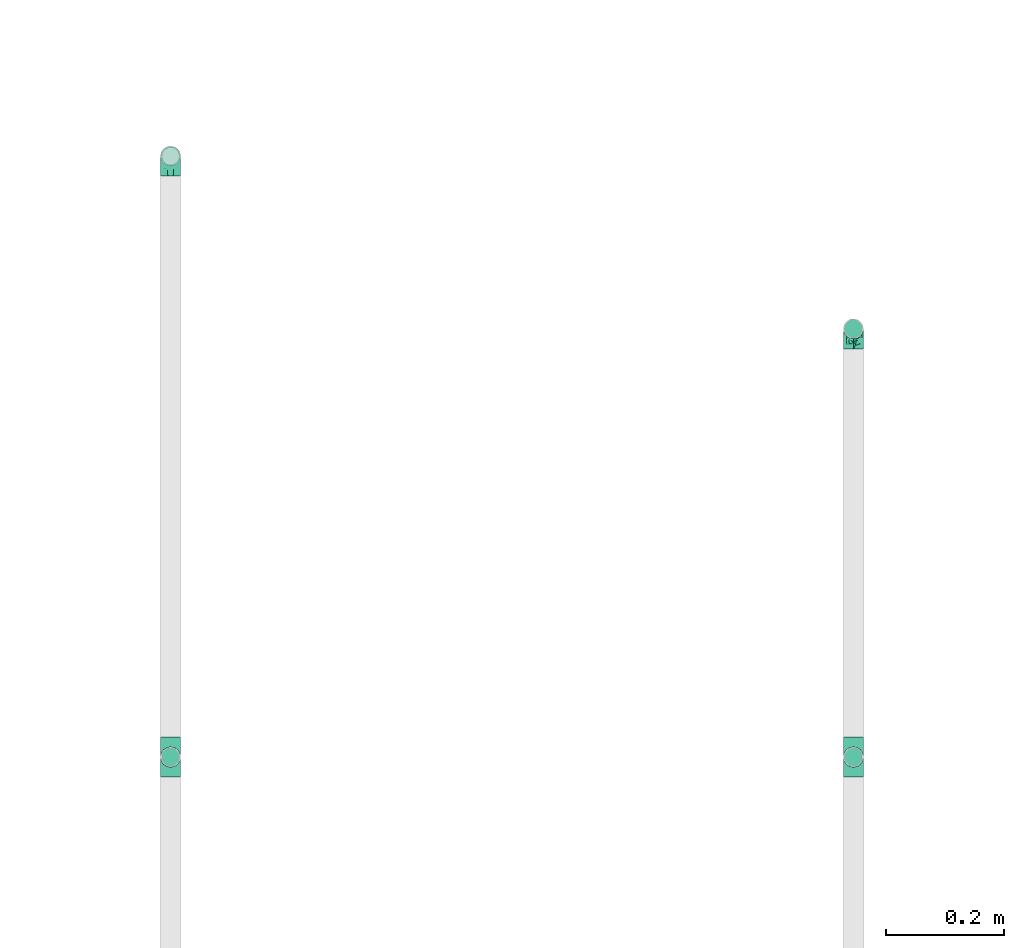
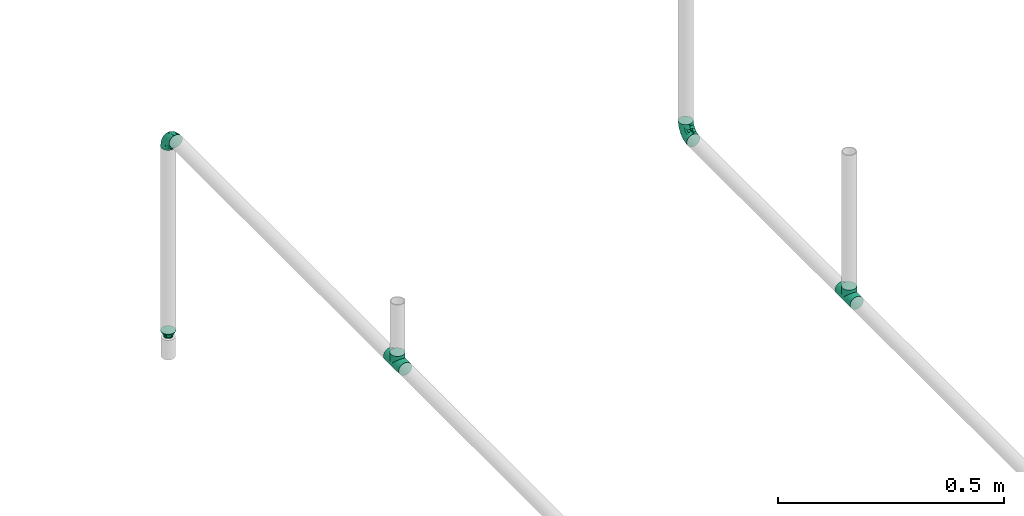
# One storey, part 44 of 95: 5 flow fittings.
"""IFC2X3 building model written with IfcOpenShell, lengths in millimetres."""

from ifc_helpers import new_model, entity, si_unit, converted_unit, derived_unit, direction, frame, origin_with_axes, place, context, subcontext, project, spatial, open_shell, surface_model, source, transform, mapped, type_object, element, save


model = new_model("IFC2X3")

# Units and contexts
model_context = context("Model", 3, precision=0.01, world=frame((0.0, 4.29681676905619e-09, 0.0)), true_north=direction((4.01073788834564e-13, 1.0)))
plan_context = context("Plan", 3, precision=0.01, world=frame((0.0, 4.29681676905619e-09, 0.0)), true_north=direction((4.01073788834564e-13, 1.0)))
body_context = subcontext(model_context, "Body", "Model", "MODEL_VIEW")
ifc_project = project(units=[converted_unit("PLANEANGLEUNIT", "DEGREE", entity("IfcPositiveLengthMeasure", 0.0174532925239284), si_unit("PLANEANGLEUNIT", "RADIAN"), dimensions=[0, 0, 0, 0, 0, 0, 0]), si_unit("AREAUNIT", "SQUARE_METRE"), si_unit("LENGTHUNIT", "METRE", prefix="MILLI"), si_unit("MASSUNIT", "GRAM", prefix="KILO"), si_unit("POWERUNIT", "WATT"), si_unit("PRESSUREUNIT", "PASCAL"), si_unit("FORCEUNIT", "NEWTON", prefix="KILO"), si_unit("ELECTRICVOLTAGEUNIT", "VOLT"), si_unit("ELECTRICCURRENTUNIT", "AMPERE"), si_unit("THERMODYNAMICTEMPERATUREUNIT", "DEGREE_CELSIUS"), si_unit("TIMEUNIT", "SECOND"), si_unit("VOLUMEUNIT", "CUBIC_METRE"), derived_unit("LINEARVELOCITYUNIT", [(si_unit("LENGTHUNIT", "METRE"), 1), (si_unit("TIMEUNIT", "SECOND"), -1)]), derived_unit("VOLUMETRICFLOWRATEUNIT", [(si_unit("VOLUMEUNIT", "CUBIC_METRE"), 1), (si_unit("TIMEUNIT", "SECOND"), -1)]), derived_unit("THERMALTRANSMITTANCEUNIT", [(si_unit("POWERUNIT", "WATT"), 1), (si_unit("THERMODYNAMICTEMPERATUREUNIT", "KELVIN"), -1), (si_unit("AREAUNIT", "SQUARE_METRE"), -1)]), derived_unit("SOUNDPRESSUREUNIT", [(si_unit("PRESSUREUNIT", "PASCAL"), 1)])], contexts=[model_context, plan_context])

# Site, building, storey
site_placement = place(None, frame((0.0, -4.29681676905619e-09, 0.0), z_axis=(0.0, 0.0, 1.0), x_axis=(1.0, 0.0, 0.0)))
site = spatial("IfcSite", under=ifc_project, at=site_placement, CompositionType="ELEMENT")
building_placement = place(site_placement, frame((0.0, 4.29681676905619e-09, 0.0), z_axis=(0.0, 0.0, 1.0), x_axis=(1.0, 0.0, 0.0)))
building = spatial("IfcBuilding", under=site, at=building_placement, Name="mc-building", CompositionType="ELEMENT")
storey_placement = place(building_placement, frame((0.0, 0.0, 210900.0), z_axis=(0.0, 0.0, 1.0), x_axis=(1.0, 0.0, 0.0)))
storey = spatial("IfcBuildingStorey", under=building, at=storey_placement, Name="Nivå F", CompositionType="ELEMENT", Elevation=210900.0)

# Flow fittings
pipe_fitting_type_1 = type_object("IfcPipeFittingType", Name="magi_pipe_fe_reducer_centric_short_NOR", PredefinedType="TRANSITION")
shared_shape_1 = source(origin_with_axes(), body_context, "Body", "SurfaceModel", [
    surface_model("IfcShellBasedSurfaceModel", [(-2.0, -7.56604, -7.56604), (-2.0, -10.33541, -2.76936), (-2.0, -5.35, -9.26647), (-2.0, 5.35, -9.26647), (-2.0, 10.33541, -2.76936), (-2.0, 7.56604, -7.56604), (12.4, 11.9501, 11.9501), (12.4, 0.0, 16.9), (12.4, 11.9501, -11.9501), (12.4, 16.9, 0.0), (0.0, -10.7, 0.0), (0.0, -5.35, 9.26647), (0.0, -5.35, -9.26647), (0.0, 10.7, 0.0), (12.4, 15.66253, -2.98753), (12.4, 8.96258, -13.18758), (0.0, 6.6875, -6.94985), (12.4, -15.66253, -2.98753), (12.4, -16.9, 0.0), (12.4, 5.97505, -14.42505), (0.0, 5.35, -9.26647), (12.4, 14.42505, -5.97505), (0.0, 8.025, -4.63324), (0.0, 9.3625, -2.31662), (0.0, -9.3625, -2.31662), (0.0, -8.025, -4.63324), (12.4, -14.42505, -5.97505), (12.4, 13.18758, -8.96258), (12.4, -13.18758, -8.96258), (12.4, -11.9501, -11.9501), (0.0, -6.6875, -6.94985), (12.4, -8.96258, -13.18758), (12.4, -5.97505, -14.42505), (12.4, -15.66253, 2.98753), (12.4, -8.96258, 13.18758), (0.0, -6.6875, 6.94985), (12.4, -11.9501, 11.9501), (12.4, 15.66253, 2.98753), (12.4, -5.97505, 14.42505), (12.4, -14.42505, 5.97505), (0.0, -8.025, 4.63324), (0.0, -9.3625, 2.31662), (0.0, 9.3625, 2.31662), (0.0, 8.025, 4.63324), (12.4, 14.42505, 5.97505), (12.4, -13.18758, 8.96258), (12.4, 13.18758, 8.96258), (0.0, 6.6875, 6.94985), (12.4, 8.96258, 13.18758), (0.0, 5.35, 9.26647), (12.4, 5.97505, 14.42505), (14.4, 4.37404, -16.32415), (14.4, 8.45, -14.63583), (14.4, 11.9501, -11.9501), (14.4, -8.45, -14.63583), (14.4, 16.32415, -4.37404), (14.4, 16.32415, 4.37404), (14.4, 14.63583, -8.45), (14.4, 0.0, -16.9), (14.4, -4.37404, -16.32415), (14.4, -11.9501, -11.9501), (14.4, -16.32415, -4.37404), (14.4, -14.63583, -8.45), (14.4, -16.32415, 4.37404), (14.4, 16.9, 0.0), (14.4, 14.63583, 8.45), (14.4, 11.9501, 11.9501), (14.4, 4.37404, 16.32415), (14.4, 8.45, 14.63583), (14.4, 0.0, 16.9), (14.4, -14.63583, 8.45), (14.4, -16.9, 0.0), (14.4, -8.45, 14.63583), (14.4, -11.9501, 11.9501), (14.4, -4.37404, 16.32415), (12.4, 4.37404, 16.32415), (12.4, -14.63583, 8.45), (12.4, 16.32415, 4.37404), (12.4, 8.45, 14.63583), (12.4, 14.63583, 8.45), (12.4, -8.45, 14.63583), (12.4, -4.37404, 16.32415), (12.4, -16.32415, 4.37404), (12.4, -16.32415, -4.37404), (12.4, -8.45, -14.63583), (12.4, 16.32415, -4.37404), (12.4, 14.63583, -8.45), (12.4, 8.45, -14.63583), (12.4, 4.37404, -16.32415), (12.4, 0.0, -16.9), (12.4, -14.63583, -8.45), (12.4, -4.37404, -16.32415), (-2.0, 2.76936, 10.33541), (-2.0, 0.0, 10.7), (-2.0, 5.35, 9.26647), (-2.0, 7.56604, 7.56604), (-2.0, 9.26647, 5.35), (-2.0, 10.33541, 2.76936), (-2.0, -10.33541, 2.76936), (-2.0, -2.76936, 10.33541), (-2.0, -7.56604, 7.56604), (-2.0, -5.35, 9.26647), (-2.0, -9.26647, 5.35), (-2.0, -10.7, 0.0), (-2.0, 9.26647, -5.35), (-2.0, 2.76936, -10.33541), (-2.0, -9.26647, -5.35), (-2.0, 0.0, -10.7), (-2.0, -2.76936, -10.33541), (-2.0, 10.7, 0.0), (0.0, 0.0, -10.7), (0.0, 2.76936, -10.33541), (0.0, 10.33541, -2.76936), (0.0, 7.56604, -7.56604), (0.0, -10.33541, -2.76936), (0.0, 9.26647, -5.35), (0.0, 0.0, 10.7), (0.0, -2.76936, -10.33541), (0.0, -7.56604, -7.56604), (0.0, -9.26647, -5.35), (0.0, 10.33541, 2.76936), (0.0, 9.26647, 5.35), (0.0, 7.56604, 7.56604), (0.0, 2.76936, 10.33541), (0.0, -7.56604, 7.56604), (0.0, -10.33541, 2.76936), (0.0, -9.26647, 5.35), (0.0, -2.76936, 10.33541), (0.0, 2.675, -9.26647), (0.0, -2.675, -9.26647), (12.4, 2.98753, -15.66253), (0.0, 0.0, -9.26647), (12.4, -2.98753, -15.66253), (0.0, -2.675, 9.26647), (0.0, 2.675, 9.26647), (12.4, -2.98753, 15.66253), (0.0, 0.0, 9.26647), (12.4, 2.98753, 15.66253)], [open_shell([[[0, 1, 2]], [[3, 4, 5]], [[6, 7, 8]], [[8, 9, 6]], [[10, 11, 12]], [[13, 9, 14]], [[15, 16, 8]], [[17, 18, 10]], [[15, 19, 20]], [[21, 22, 23]], [[24, 25, 26]], [[22, 21, 27]], [[28, 26, 25]], [[29, 30, 31]], [[12, 32, 31]], [[10, 18, 33]], [[34, 35, 36]], [[37, 9, 13]], [[34, 38, 11]], [[39, 40, 41]], [[42, 43, 44]], [[40, 39, 45]], [[46, 44, 43]], [[6, 47, 48]], [[49, 50, 48]], [[51, 52, 53]], [[54, 51, 53]], [[53, 55, 56]], [[55, 53, 57]], [[53, 56, 54]], [[58, 54, 59]], [[58, 51, 54]], [[60, 61, 62]], [[61, 60, 54]], [[54, 63, 61]], [[56, 55, 64]], [[56, 65, 66]], [[56, 66, 67]], [[67, 63, 54]], [[67, 66, 68]], [[63, 67, 69]], [[69, 70, 63]], [[71, 61, 63]], [[70, 72, 73]], [[70, 69, 72]], [[72, 69, 74]], [[54, 56, 67]], [[75, 76, 7]], [[77, 75, 78]], [[6, 79, 77]], [[6, 77, 78]], [[76, 75, 77]], [[80, 76, 36]], [[80, 81, 7]], [[7, 76, 80]], [[82, 76, 77]], [[82, 83, 18]], [[82, 77, 84]], [[77, 85, 8]], [[8, 85, 86]], [[8, 87, 88]], [[84, 77, 8]], [[88, 89, 8]], [[83, 29, 90]], [[29, 83, 84]], [[84, 89, 91]], [[83, 82, 84]], [[8, 89, 84]], [[85, 77, 9]], [[83, 61, 18]], [[90, 62, 83]], [[54, 29, 84]], [[90, 29, 60]], [[59, 84, 91]], [[83, 62, 61]], [[61, 71, 18]], [[59, 54, 84]], [[60, 29, 54]], [[60, 62, 90]], [[58, 59, 91]], [[91, 89, 58]], [[88, 51, 89]], [[87, 52, 88]], [[57, 8, 86]], [[87, 8, 53]], [[55, 86, 85]], [[87, 53, 52]], [[52, 51, 88]], [[64, 55, 85]], [[57, 86, 55]], [[57, 53, 8]], [[9, 64, 85]], [[89, 51, 58]], [[77, 56, 9]], [[79, 65, 77]], [[68, 6, 78]], [[79, 6, 66]], [[67, 78, 75]], [[77, 65, 56]], [[56, 64, 9]], [[67, 68, 78]], [[66, 6, 68]], [[66, 65, 79]], [[69, 67, 75]], [[75, 7, 69]], [[81, 74, 7]], [[80, 72, 81]], [[70, 36, 76]], [[80, 36, 73]], [[63, 76, 82]], [[80, 73, 72]], [[72, 74, 81]], [[71, 63, 82]], [[70, 76, 63]], [[70, 73, 36]], [[18, 71, 82]], [[7, 74, 69]], [[92, 1, 93]], [[94, 1, 92]], [[95, 96, 97]], [[95, 97, 94]], [[98, 93, 1]], [[99, 100, 101]], [[99, 93, 100]], [[100, 98, 102]], [[93, 98, 100]], [[98, 1, 103]], [[94, 97, 1]], [[1, 97, 4]], [[5, 4, 104]], [[4, 3, 1]], [[105, 1, 3]], [[1, 0, 106]], [[2, 107, 108]], [[2, 1, 105]], [[105, 107, 2]], [[4, 97, 109]], [[20, 110, 111]], [[112, 20, 113]], [[114, 20, 112]], [[112, 113, 115]], [[116, 114, 112]], [[110, 12, 117]], [[110, 20, 12]], [[118, 114, 119]], [[114, 118, 12]], [[20, 114, 12]], [[112, 13, 120]], [[120, 121, 122]], [[120, 122, 123]], [[116, 112, 123]], [[123, 122, 49]], [[116, 124, 114]], [[125, 124, 126]], [[10, 114, 125]], [[124, 127, 11]], [[125, 114, 124]], [[127, 124, 116]], [[123, 112, 120]], [[1, 114, 103]], [[106, 119, 1]], [[12, 0, 2]], [[106, 0, 118]], [[117, 2, 108]], [[1, 119, 114]], [[114, 10, 103]], [[117, 12, 2]], [[118, 0, 12]], [[118, 119, 106]], [[110, 117, 108]], [[108, 107, 110]], [[105, 111, 107]], [[3, 20, 105]], [[115, 5, 104]], [[3, 5, 113]], [[112, 104, 4]], [[3, 113, 20]], [[20, 111, 105]], [[13, 112, 4]], [[115, 104, 112]], [[115, 113, 5]], [[109, 13, 4]], [[107, 111, 110]], [[97, 120, 109]], [[96, 121, 97]], [[49, 95, 94]], [[96, 95, 122]], [[123, 94, 92]], [[97, 121, 120]], [[120, 13, 109]], [[123, 49, 94]], [[122, 95, 49]], [[122, 121, 96]], [[116, 123, 92]], [[92, 93, 116]], [[99, 127, 93]], [[101, 11, 99]], [[126, 100, 102]], [[101, 100, 124]], [[125, 102, 98]], [[101, 124, 11]], [[11, 127, 99]], [[10, 125, 98]], [[126, 102, 125]], [[126, 124, 100]], [[103, 10, 98]], [[93, 127, 116]], [[18, 7, 36]], [[18, 29, 8]], [[89, 8, 29]], [[18, 8, 7]], [[13, 11, 49]], [[13, 20, 12]], [[13, 12, 11]], [[24, 26, 17]], [[10, 24, 17]], [[16, 15, 20]], [[30, 12, 31]], [[23, 14, 21]], [[19, 128, 20]], [[27, 8, 16]], [[32, 12, 129]], [[30, 28, 25]], [[130, 131, 128]], [[129, 132, 32]], [[16, 22, 27]], [[13, 14, 23]], [[128, 19, 130]], [[130, 89, 131]], [[131, 132, 129]], [[89, 132, 131]], [[28, 30, 29]], [[42, 44, 37]], [[13, 42, 37]], [[35, 34, 11]], [[47, 49, 48]], [[41, 33, 39]], [[38, 133, 11]], [[45, 36, 35]], [[50, 49, 134]], [[47, 46, 43]], [[135, 136, 133]], [[134, 137, 50]], [[35, 40, 45]], [[10, 33, 41]], [[133, 38, 135]], [[135, 7, 136]], [[136, 137, 134]], [[7, 137, 136]], [[46, 47, 6]]])]),
])
flow_fitting_placement = place(storey_placement, frame((526298.68266, 447207.85, 3762.948), z_axis=(-1.0, 0.0, 0.0), x_axis=(0.0, 0.0, 1.0)))
element("IfcFlowFitting", 1, at=flow_fitting_placement, inside=storey, type_object=pipe_fitting_type_1, Name="magi_pipe_fe_reducer_centric_short_NOR", context=body_context, shape_type="MappedRepresentation", body=[
    mapped(shared_shape_1, transform((0.0, 0.0, 0.0), scale=1.0)),
])
pipe_fitting_type_2 = type_object("IfcPipeFittingType", Name="magi_pipe_fe_elbow_short_001", PredefinedType="BEND")
shared_shape_2 = source(origin_with_axes(), body_context, "Body", "SurfaceModel", [
    surface_model("IfcShellBasedSurfaceModel", [(-33.8, 8.45, -14.63583), (-33.8, 4.37404, -16.32415), (-33.8, 11.9501, -11.9501), (-33.8, -11.9501, -11.9501), (-33.8, -14.63583, -8.45), (-33.8, -8.45, -14.63583), (-33.8, 0.0, -16.9), (-33.8, -4.37404, -16.32415), (-33.8, -4.37404, 16.32415), (-33.8, 0.0, 16.9), (-33.8, -8.45, 14.63583), (-33.8, 16.32415, -4.37404), (-33.8, 14.63583, -8.45), (-33.8, -16.32415, -4.37404), (-33.8, -16.9, 0.0), (-33.8, -16.32415, 4.37404), (-33.8, 11.9501, 11.9501), (-33.8, 14.63583, 8.45), (-33.8, 16.32415, 4.37404), (-33.8, 4.37404, 16.32415), (-33.8, 8.45, 14.63583), (-33.8, -14.63583, 8.45), (-33.8, -11.9501, 11.9501), (-33.8, 16.9, 0.0), (-11.9501, 33.8, -11.9501), (0.0, 33.8, -16.9), (-4.37404, 33.8, -16.32415), (-8.45, 33.8, -14.63583), (-14.63583, 33.8, -8.45), (-16.32415, 33.8, -4.37404), (14.63583, 33.8, -8.45), (8.45, 33.8, 14.63583), (16.32415, 33.8, -4.37404), (8.45, 33.8, -14.63583), (11.9501, 33.8, -11.9501), (4.37404, 33.8, -16.32415), (16.32415, 33.8, 4.37404), (16.9, 33.8, 0.0), (-11.9501, 33.8, 11.9501), (-16.32415, 33.8, 4.37404), (-14.63583, 33.8, 8.45), (-8.45, 33.8, 14.63583), (-4.37404, 33.8, 16.32415), (11.9501, 33.8, 11.9501), (14.63583, 33.8, 8.45), (0.0, 33.8, 16.9), (4.37404, 33.8, 16.32415), (-16.9, 33.8, 0.0), (-24.79389, -13.12945, 9.48721), (-22.19287, -9.75018, 12.59315), (-24.09897, -14.97035, 0.0), (-14.93934, -10.76256, 8.5297), (-22.46095, -14.75051, 5.27077), (14.75051, 22.46094, 5.27077), (11.9251, 13.23888, 4.33236), (13.04069, 14.39795, 0.0), (7.71387, 13.68847, 11.55891), (9.75018, 22.19287, 12.59315), (4.10169, 13.0571, 14.04018), (-24.84007, -6.39063, 15.2048), (-25.81779, -2.23879, 16.61097), (-23.66549, 2.59054, 16.87119), (-26.50418, 14.06512, 11.08152), (-24.21253, 17.66365, 7.72657), (-29.58514, 15.86957, 7.00283), (-6.17382, -7.5455, 0.0), (-13.23888, -11.9251, 4.33236), (-14.39795, -13.04069, 0.0), (-17.81434, 18.87373, 11.97104), (-6.30846, 29.15138, 15.82987), (-2.31622, 25.28002, 16.85849), (-29.23923, 10.23435, 13.77053), (-1.45439, -2.85688, 7.61475), (-0.28326, 0.34872, 10.09509), (-5.74484, -4.04709, 10.4122), (-4.41137, 11.31918, 16.59407), (-8.39727, 3.10034, 15.7812), (-1.72649, 9.1306, 15.53089), (-17.39909, 24.75344, 7.64977), (-26.19233, 20.0512, 0.0), (-28.14518, 17.29657, 4.25857), (-26.05147, 6.6281, 15.96447), (-5.87354, 16.61944, 16.86968), (-12.51807, 12.51807, 16.48937), (-10.06312, 7.38516, 16.81295), (-3.01882, 3.01882, 13.81718), (-13.0571, -4.10169, 14.04018), (-16.82553, -0.15166, 16.38038), (10.76256, 14.93934, 8.5297), (13.12945, 24.79389, 9.48721), (6.39063, 24.84007, 15.2048), (2.23879, 25.81779, 16.61097), (-13.68847, -7.71387, 11.55891), (14.97035, 24.09897, 0.0), (-7.30894, 22.89991, 16.09489), (-10.67958, 26.17414, 14.008), (-12.78295, 18.26924, 15.06066), (-13.88562, 22.45231, 12.93244), (-18.04944, 15.16501, 14.04434), (-23.11658, 20.08178, 4.02986), (-21.84989, 21.84989, 0.0), (-18.55817, 25.48277, 3.93065), (-13.95142, 26.94732, 11.03289), (-18.57098, 7.23906, 16.59756), (-16.58335, 4.14122, 16.89279), (-17.96666, 11.46709, 15.63151), (-9.84453, 17.54304, 16.18938), (0.15166, 16.82553, 16.38038), (-23.27207, 11.47201, 14.23154), (3.84842, 5.86994, 10.70473), (-8.0212, -7.54413, 7.93275), (1.00345, -2.19508, 4.57414), (5.13203, 3.01004, 5.90201), (5.24161, 1.7543, 2.53265), (8.70457, 7.04947, 3.99182), (-20.0512, 26.19233, 0.0), (8.4852, 8.76699, 7.09296), (-4.55488, -6.72064, 4.90681), (2.05031, -2.05031, 0.0), (7.5455, 6.17382, 0.0), (-26.75399, 2.1369, -16.845), (-14.61995, 24.73803, -11.27736), (-28.45274, -13.45335, -9.81895), (-26.00469, 6.63555, -15.96645), (-23.06726, 20.04573, -4.26202), (-13.80647, -4.26506, -14.17873), (-14.67501, -0.21081, -16.07388), (-6.7902, -0.2828, -13.8478), (-24.53586, 11.08096, -14.13417), (-26.72048, 14.00837, -11.05776), (10.0967, 24.44989, -12.75976), (5.83237, 21.40218, -15.03047), (6.66249, 28.54238, -15.38093), (-20.38182, 15.48705, -12.74596), (12.53268, 21.23441, -9.15363), (12.54494, 15.67504, -5.54878), (9.7522, 12.89279, -8.66343), (-15.65186, 19.64213, -13.01327), (-12.03528, 20.66498, -14.67665), (-15.61907, 15.61906, -14.83879), (-25.56551, -15.26206, 0.0), (-24.65452, -15.12934, -5.50955), (13.45335, 28.45274, -9.81895), (15.12934, 24.65452, -5.50955), (-7.35442, -8.31014, -5.65563), (-15.67504, -12.54494, -5.54878), (-24.44989, -10.0967, -12.75976), (0.16522, 0.41303, -9.71728), (-5.70658, -5.33066, -8.89288), (-5.13869, -2.37198, -11.53565), (-21.23441, -12.53268, -9.15363), (0.71146, 7.93863, -14.09382), (0.21081, 14.67501, -16.07388), (3.49291, 14.42772, -14.76381), (-24.89911, -2.13088, -16.591), (-28.54238, -6.66249, -15.38093), (-18.44386, -7.71663, -13.26957), (2.13088, 24.89911, -16.591), (-28.64342, 17.44413, -2.89318), (1.70017, -1.28722, -5.09504), (-16.57067, 26.81947, -7.36596), (-17.69055, 27.4263, -3.76405), (-12.89279, -9.7522, -8.66343), (-5.96611, 5.96611, -15.95814), (-20.53709, 20.09345, -8.28985), (-2.1369, 26.75399, -16.845), (-6.89872, 24.58781, -16.02578), (-10.60739, 26.53157, -13.98044), (-21.40218, -5.83237, -15.03047), (2.93192, 5.89627, -11.55917), (6.89393, 12.61842, -11.82233), (5.58056, 5.95325, -8.79455), (-3.99512, 18.61798, -16.89635), (8.31014, 7.35442, -5.65563), (-9.1383, 9.86148, -16.89041), (-9.99983, 16.02119, -16.39699), (-16.68576, 9.78031, -16.34199), (-27.01915, 16.61158, -7.12979), (15.26206, 25.56551, 0.0), (-18.61798, 3.99512, -16.89635), (-19.37495, 27.82495, 0.0), (-12.61842, -6.89393, -11.82233), (-18.84705, 19.14018, -10.96545)], [open_shell([[[0, 1, 2]], [[3, 4, 5]], [[6, 7, 5]], [[8, 9, 10]], [[1, 6, 2]], [[11, 12, 2]], [[4, 2, 6]], [[2, 13, 10]], [[5, 4, 6]], [[2, 4, 13]], [[14, 15, 13]], [[11, 2, 16]], [[11, 17, 18]], [[11, 16, 17]], [[19, 20, 16]], [[16, 2, 10]], [[19, 16, 10]], [[21, 22, 15]], [[22, 13, 15]], [[22, 10, 13]], [[10, 9, 19]], [[11, 18, 23]], [[24, 25, 26]], [[24, 26, 27]], [[24, 28, 29]], [[25, 24, 30]], [[31, 32, 24]], [[33, 30, 34]], [[33, 35, 25]], [[25, 30, 33]], [[32, 30, 24]], [[32, 36, 37]], [[38, 24, 29]], [[39, 40, 29]], [[40, 38, 29]], [[38, 41, 42]], [[38, 31, 24]], [[31, 38, 42]], [[36, 43, 44]], [[36, 32, 43]], [[31, 45, 46]], [[32, 31, 43]], [[42, 45, 31]], [[39, 29, 47]], [[22, 48, 49]], [[15, 14, 50]], [[51, 48, 52]], [[53, 54, 55]], [[48, 22, 21]], [[15, 52, 21]], [[56, 57, 58]], [[49, 10, 22]], [[49, 59, 10]], [[9, 60, 61]], [[62, 63, 64]], [[65, 66, 67]], [[57, 43, 31]], [[62, 68, 63]], [[42, 69, 70]], [[20, 71, 16]], [[8, 60, 9]], [[72, 73, 74]], [[75, 76, 77]], [[16, 62, 17]], [[40, 39, 78]], [[79, 23, 80]], [[64, 18, 17]], [[9, 61, 19]], [[19, 81, 20]], [[82, 83, 84]], [[74, 85, 86]], [[59, 86, 87]], [[88, 89, 57]], [[90, 31, 46]], [[44, 53, 36]], [[46, 45, 91]], [[54, 53, 88]], [[44, 89, 53]], [[92, 86, 49]], [[89, 44, 43]], [[10, 59, 8]], [[53, 55, 93]], [[93, 36, 53]], [[66, 52, 67]], [[94, 82, 70]], [[95, 96, 94]], [[97, 98, 96]], [[79, 99, 100]], [[41, 38, 95]], [[101, 100, 99]], [[68, 78, 63]], [[42, 41, 69]], [[23, 18, 80]], [[95, 94, 69]], [[78, 101, 99]], [[38, 102, 95]], [[70, 45, 42]], [[97, 95, 102]], [[15, 50, 52]], [[90, 57, 31]], [[57, 90, 58]], [[81, 19, 61]], [[103, 104, 84]], [[105, 81, 103]], [[38, 40, 102]], [[106, 96, 83]], [[94, 106, 82]], [[91, 70, 107]], [[71, 62, 16]], [[62, 108, 98]], [[86, 59, 49]], [[67, 52, 50]], [[60, 59, 87]], [[92, 49, 51]], [[86, 85, 76]], [[91, 90, 46]], [[37, 36, 93]], [[107, 77, 58]], [[107, 58, 90]], [[58, 85, 109]], [[110, 74, 92]], [[72, 74, 110]], [[66, 51, 52]], [[72, 111, 112]], [[113, 114, 112]], [[56, 88, 57]], [[52, 48, 21]], [[49, 48, 51]], [[57, 89, 43]], [[53, 89, 88]], [[103, 81, 61]], [[71, 81, 108]], [[18, 64, 80]], [[63, 78, 99]], [[47, 115, 101]], [[101, 115, 100]], [[40, 78, 102]], [[68, 102, 78]], [[97, 96, 95]], [[105, 98, 108]], [[103, 84, 83]], [[107, 70, 82]], [[76, 84, 87]], [[82, 84, 75]], [[70, 91, 45]], [[90, 91, 107]], [[59, 60, 8]], [[61, 60, 87]], [[73, 85, 74]], [[109, 112, 116]], [[103, 61, 104]], [[105, 103, 83]], [[96, 105, 83]], [[81, 105, 108]], [[96, 98, 105]], [[62, 98, 68]], [[61, 87, 104]], [[87, 84, 104]], [[86, 76, 87]], [[77, 76, 85]], [[58, 77, 85]], [[75, 77, 107]], [[82, 75, 107]], [[76, 75, 84]], [[81, 71, 20]], [[62, 71, 108]], [[95, 69, 41]], [[70, 69, 94]], [[62, 64, 17]], [[80, 63, 99]], [[63, 80, 64]], [[80, 99, 79]], [[66, 65, 117]], [[110, 66, 117]], [[112, 114, 116]], [[118, 117, 65]], [[110, 92, 51]], [[112, 111, 113]], [[119, 55, 54]], [[74, 86, 92]], [[58, 109, 56]], [[116, 56, 109]], [[66, 110, 51]], [[72, 110, 117]], [[111, 72, 117]], [[73, 112, 109]], [[117, 118, 111]], [[113, 111, 118]], [[118, 119, 113]], [[114, 119, 54]], [[119, 114, 113]], [[116, 54, 88]], [[54, 116, 114]], [[116, 88, 56]], [[112, 73, 72]], [[85, 73, 109]], [[78, 39, 101]], [[47, 101, 39]], [[102, 68, 97]], [[97, 68, 98]], [[82, 106, 83]], [[94, 96, 106]], [[1, 120, 6]], [[28, 24, 121]], [[3, 122, 4]], [[0, 123, 1]], [[100, 124, 79]], [[125, 126, 127]], [[128, 2, 129]], [[130, 131, 132]], [[128, 129, 133]], [[134, 135, 136]], [[137, 138, 139]], [[128, 0, 2]], [[67, 140, 141]], [[134, 142, 143]], [[141, 13, 4]], [[144, 65, 145]], [[146, 3, 5]], [[147, 148, 149]], [[145, 141, 150]], [[151, 152, 153]], [[154, 7, 6]], [[5, 155, 146]], [[150, 146, 156]], [[155, 5, 7]], [[143, 135, 134]], [[35, 157, 25]], [[23, 79, 158]], [[148, 159, 144]], [[160, 161, 29]], [[145, 162, 144]], [[163, 152, 151]], [[29, 28, 160]], [[121, 164, 160]], [[33, 34, 130]], [[25, 165, 26]], [[26, 165, 166]], [[142, 34, 30]], [[24, 27, 167]], [[124, 161, 164]], [[157, 35, 132]], [[155, 154, 168]], [[123, 0, 128]], [[169, 170, 171]], [[172, 157, 152]], [[26, 166, 27]], [[132, 35, 33]], [[142, 130, 34]], [[168, 154, 126]], [[136, 135, 173]], [[133, 137, 139]], [[2, 12, 129]], [[170, 131, 130]], [[30, 32, 143]], [[172, 174, 175]], [[176, 123, 128]], [[158, 177, 11]], [[135, 55, 119]], [[167, 27, 166]], [[175, 166, 172]], [[137, 167, 138]], [[122, 141, 4]], [[140, 14, 13]], [[32, 37, 178]], [[170, 130, 134]], [[152, 157, 131]], [[165, 157, 172]], [[153, 170, 151]], [[152, 163, 174]], [[168, 125, 156]], [[122, 146, 150]], [[120, 154, 6]], [[179, 174, 126]], [[179, 126, 154]], [[126, 163, 127]], [[162, 145, 150]], [[140, 13, 141]], [[32, 178, 143]], [[55, 143, 178]], [[177, 129, 12]], [[128, 133, 139]], [[176, 128, 139]], [[120, 123, 179]], [[121, 160, 28]], [[161, 100, 180]], [[166, 175, 138]], [[121, 24, 167]], [[161, 47, 29]], [[79, 124, 158]], [[124, 164, 177]], [[161, 124, 100]], [[136, 171, 170]], [[127, 163, 151]], [[147, 171, 159]], [[148, 144, 162]], [[127, 151, 169]], [[127, 181, 125]], [[129, 177, 164]], [[12, 11, 177]], [[159, 65, 144]], [[67, 141, 145]], [[143, 55, 135]], [[135, 119, 173]], [[123, 120, 1]], [[154, 120, 179]], [[157, 165, 25]], [[166, 165, 172]], [[172, 152, 174]], [[176, 139, 175]], [[126, 174, 163]], [[176, 174, 179]], [[174, 176, 175]], [[123, 176, 179]], [[150, 181, 162]], [[127, 149, 181]], [[181, 148, 162]], [[159, 148, 147]], [[171, 136, 173]], [[170, 134, 136]], [[159, 171, 173]], [[171, 147, 169]], [[169, 147, 149]], [[151, 170, 169]], [[164, 182, 129]], [[182, 121, 137]], [[181, 149, 148]], [[169, 149, 127]], [[182, 137, 133]], [[167, 137, 121]], [[166, 138, 167]], [[175, 139, 138]], [[129, 182, 133]], [[121, 182, 164]], [[161, 160, 164]], [[47, 161, 180]], [[177, 158, 124]], [[23, 158, 11]], [[130, 132, 33]], [[157, 132, 131]], [[143, 142, 30]], [[130, 142, 134]], [[154, 155, 7]], [[146, 155, 168]], [[146, 122, 3]], [[141, 122, 150]], [[152, 131, 153]], [[159, 119, 118]], [[67, 145, 65]], [[170, 153, 131]], [[119, 159, 173]], [[159, 118, 65]], [[156, 125, 181]], [[126, 125, 168]], [[150, 156, 181]], [[168, 156, 146]]])]),
])
for number, where, z_axis, x_axis, name in (
    (2, (527453.43639, 446915.88295, 4082.76795000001), (-1.0, 0.0, 0.0), (0.0, 0.0, -1.0), "magi_pipe_fe_elbow_short_001"),
    (3, (526298.68266, 447207.85, 4308.26618000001), (1.0, 0.0, 0.0), (0.0, 0.0, 1.0), "magi_pipe_fe_elbow_short_001"),
):
    element("IfcFlowFitting", number, at=place(storey_placement, frame(where, z_axis=z_axis, x_axis=x_axis)), inside=storey, type_object=pipe_fitting_type_2, Name=name, context=body_context, shape_type="MappedRepresentation", body=[
        mapped(shared_shape_2, transform((0.0, 0.0, 0.0), scale=1.0)),
    ])
pipe_fitting_type_3 = type_object("IfcPipeFittingType", Name="magi_pipe_fe_tee_centric_90_NOR", PredefinedType="JUNCTION")
shared_shape_3 = source(origin_with_axes(), body_context, "Body", "SurfaceModel", [
    surface_model("IfcShellBasedSurfaceModel", [(-33.8, 4.37404, -16.32415), (-33.8, 0.0, -16.9), (-33.8, 16.32415, -4.37404), (-33.8, 8.45, -14.63583), (-33.8, 11.9501, -11.9501), (-33.8, 14.63583, -8.45), (-33.8, -16.9, 0.0), (-33.8, -11.9501, -11.9501), (-33.8, -14.63583, -8.45), (-33.8, -8.45, -14.63583), (-33.8, -4.37404, -16.32415), (-33.8, -16.32415, -4.37404), (-33.8, 14.63583, 8.45), (-33.8, 16.32415, 4.37404), (-33.8, -8.45, 14.63583), (-33.8, 8.45, 14.63583), (-33.8, 11.9501, 11.9501), (-33.8, 4.37404, 16.32415), (-33.8, 0.0, 16.9), (-33.8, -11.9501, 11.9501), (-33.8, -14.63583, 8.45), (-33.8, -16.32415, 4.37404), (-33.8, -4.37404, 16.32415), (-33.8, 16.9, 0.0), (33.8, 4.37404, -16.32415), (33.8, -16.9, 0.0), (33.8, 0.0, -16.9), (33.8, 14.63583, -8.45), (33.8, 8.45, -14.63583), (33.8, 16.32415, -4.37404), (33.8, 11.9501, -11.9501), (33.8, -16.32415, 4.37404), (33.8, -8.45, -14.63583), (33.8, -4.37404, -16.32415), (33.8, -11.9501, -11.9501), (33.8, -14.63583, -8.45), (33.8, -16.32415, -4.37404), (33.8, 16.32415, 4.37404), (33.8, 8.45, 14.63583), (33.8, 14.63583, 8.45), (33.8, 11.9501, 11.9501), (33.8, -8.45, 14.63583), (33.8, 4.37404, 16.32415), (33.8, -14.63583, 8.45), (33.8, -11.9501, 11.9501), (33.8, 0.0, 16.9), (33.8, -4.37404, 16.32415), (33.8, 16.9, 0.0), (16.28698, -16.28698, 4.51047), (16.9, -16.9, 0.0), (14.62704, -14.62704, 8.4652), (9.47213, -9.47213, 13.99602), (12.26343, -12.26343, 11.62834), (-16.9, -16.9, 0.0), (-16.28698, -16.28698, 4.51047), (-14.62704, -14.62704, 8.4652), (-12.26343, -12.26343, 11.62834), (-9.47213, -9.47213, 13.99602), (-6.42894, -6.42894, 15.62942), (6.42894, -6.42894, 15.62942), (3.24522, -3.24522, 16.58549), (0.0, 0.0, 16.9), (-3.24522, -3.24522, 16.58549), (3.24522, -3.24522, -16.58549), (0.0, 0.0, -16.9), (-3.24522, -3.24522, -16.58549), (-6.42894, -6.42894, -15.62942), (6.42894, -6.42894, -15.62942), (9.47213, -9.47213, -13.99602), (12.26343, -12.26343, -11.62834), (14.62704, -14.62704, -8.4652), (16.28698, -16.28698, -4.51047), (-9.47213, -9.47213, -13.99602), (-12.26343, -12.26343, -11.62834), (-16.28698, -16.28698, -4.51047), (-14.62704, -14.62704, -8.4652), (4.37404, -25.35, -16.32415), (-16.9, -25.35, 0.0), (0.0, -25.35, -16.9), (14.63583, -25.35, -8.45), (8.45, -25.35, -14.63583), (16.32415, -25.35, -4.37404), (11.9501, -25.35, -11.9501), (-11.9501, -25.35, -11.9501), (-8.45, -25.35, -14.63583), (-4.37404, -25.35, -16.32415), (-14.63583, -25.35, -8.45), (-16.32415, -25.35, -4.37404), (16.9, -25.35, 0.0), (8.45, -25.35, 14.63583), (16.32415, -25.35, 4.37404), (14.63583, -25.35, 8.45), (-8.45, -25.35, 14.63583), (11.9501, -25.35, 11.9501), (4.37404, -25.35, 16.32415), (-16.32415, -25.35, 4.37404), (-11.9501, -25.35, 11.9501), (-14.63583, -25.35, 8.45), (0.0, -25.35, 16.9), (-4.37404, -25.35, 16.32415)], [open_shell([[[0, 1, 2]], [[3, 0, 4]], [[0, 2, 5]], [[4, 0, 5]], [[6, 2, 1]], [[7, 8, 9]], [[1, 10, 9]], [[11, 6, 8]], [[1, 9, 8]], [[1, 8, 6]], [[6, 12, 2]], [[12, 13, 2]], [[14, 12, 6]], [[12, 14, 15]], [[16, 12, 15]], [[17, 15, 18]], [[19, 14, 20]], [[21, 20, 14]], [[22, 18, 14]], [[14, 6, 21]], [[14, 18, 15]], [[23, 2, 13]], [[24, 25, 26]], [[27, 24, 28]], [[27, 29, 24]], [[27, 28, 30]], [[31, 25, 24]], [[26, 32, 33]], [[26, 34, 32]], [[35, 25, 36]], [[35, 34, 26]], [[25, 35, 26]], [[24, 29, 31]], [[29, 37, 38]], [[38, 37, 39]], [[38, 31, 29]], [[38, 39, 40]], [[41, 38, 42]], [[43, 41, 44]], [[41, 43, 31]], [[41, 45, 46]], [[41, 31, 38]], [[42, 45, 41]], [[29, 47, 37]], [[31, 43, 48]], [[25, 31, 49]], [[49, 31, 48]], [[43, 50, 48]], [[44, 41, 51]], [[50, 43, 52]], [[51, 52, 44]], [[52, 43, 44]], [[53, 54, 21]], [[53, 21, 6]], [[21, 54, 20]], [[54, 55, 20]], [[56, 57, 19]], [[19, 20, 56]], [[19, 57, 14]], [[56, 20, 55]], [[14, 57, 58]], [[51, 41, 59]], [[60, 45, 61]], [[59, 46, 60]], [[46, 59, 41]], [[60, 46, 45]], [[61, 45, 42]], [[39, 37, 13]], [[16, 38, 40]], [[12, 40, 39]], [[42, 38, 15]], [[23, 37, 47]], [[62, 61, 18]], [[62, 22, 58]], [[22, 62, 18]], [[58, 22, 14]], [[61, 17, 18]], [[42, 17, 61]], [[15, 17, 42]], [[15, 38, 16]], [[12, 16, 40]], [[13, 12, 39]], [[37, 23, 13]], [[5, 27, 30]], [[23, 47, 29]], [[30, 28, 3]], [[27, 2, 29]], [[26, 33, 63]], [[26, 64, 24]], [[64, 26, 63]], [[28, 24, 0]], [[64, 0, 24]], [[4, 30, 3]], [[2, 27, 5]], [[5, 30, 4]], [[2, 23, 29]], [[65, 66, 10]], [[1, 0, 64]], [[1, 65, 10]], [[66, 9, 10]], [[0, 3, 28]], [[1, 64, 65]], [[63, 33, 67]], [[32, 34, 68]], [[69, 68, 34]], [[35, 70, 69]], [[69, 34, 35]], [[32, 68, 67]], [[36, 25, 49]], [[36, 71, 35]], [[71, 36, 49]], [[35, 71, 70]], [[72, 9, 66]], [[72, 7, 9]], [[7, 72, 73]], [[7, 73, 8]], [[74, 53, 11]], [[75, 74, 8]], [[74, 11, 8]], [[11, 53, 6]], [[75, 8, 73]], [[32, 67, 33]], [[76, 77, 78]], [[79, 76, 80]], [[79, 81, 76]], [[79, 80, 82]], [[77, 76, 81]], [[78, 83, 84]], [[84, 85, 78]], [[86, 77, 87]], [[83, 78, 86]], [[77, 86, 78]], [[81, 88, 77]], [[89, 88, 90]], [[89, 90, 91]], [[92, 77, 89]], [[89, 91, 93]], [[92, 89, 94]], [[95, 96, 97]], [[96, 95, 92]], [[92, 98, 99]], [[95, 77, 92]], [[94, 98, 92]], [[89, 77, 88]], [[77, 95, 53]], [[54, 53, 95]], [[97, 96, 56]], [[96, 92, 57]], [[95, 97, 54]], [[58, 92, 99]], [[55, 54, 97]], [[56, 55, 97]], [[58, 57, 92]], [[98, 61, 62]], [[58, 99, 62]], [[56, 96, 57]], [[62, 99, 98]], [[94, 60, 98]], [[89, 59, 94]], [[91, 90, 48]], [[52, 93, 91]], [[93, 51, 89]], [[49, 90, 88]], [[59, 60, 94]], [[51, 59, 89]], [[49, 48, 90]], [[50, 52, 91]], [[48, 50, 91]], [[51, 93, 52]], [[98, 60, 61]], [[88, 81, 49]], [[71, 49, 81]], [[79, 82, 69]], [[82, 80, 68]], [[81, 79, 71]], [[67, 80, 76]], [[70, 71, 79]], [[69, 70, 79]], [[67, 68, 80]], [[78, 64, 63]], [[67, 76, 63]], [[69, 82, 68]], [[63, 76, 78]], [[85, 65, 78]], [[84, 66, 85]], [[86, 87, 74]], [[86, 73, 83]], [[72, 84, 83]], [[53, 87, 77]], [[66, 65, 85]], [[72, 66, 84]], [[53, 74, 87]], [[75, 73, 86]], [[74, 75, 86]], [[72, 83, 73]], [[78, 65, 64]]])]),
])
for number, where, z_axis, x_axis, name in (
    (4, (527453.43639, 446191.7762, 4082.76795000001), (1.0, 0.0, 0.0), (0.0, -1.0, 0.0), "magi_pipe_fe_tee_centric_90_NOR"),
    (5, (526298.68266, 446191.7762, 4308.26618000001), (1.0, 0.0, 0.0), (0.0, -1.0, 0.0), "magi_pipe_fe_tee_centric_90_NOR"),
):
    element("IfcFlowFitting", number, at=place(storey_placement, frame(where, z_axis=z_axis, x_axis=x_axis)), inside=storey, type_object=pipe_fitting_type_3, Name=name, context=body_context, shape_type="MappedRepresentation", body=[
        mapped(shared_shape_3, transform((0.0, 0.0, 0.0), scale=1.0)),
    ])

save(model, "model.ifc")
